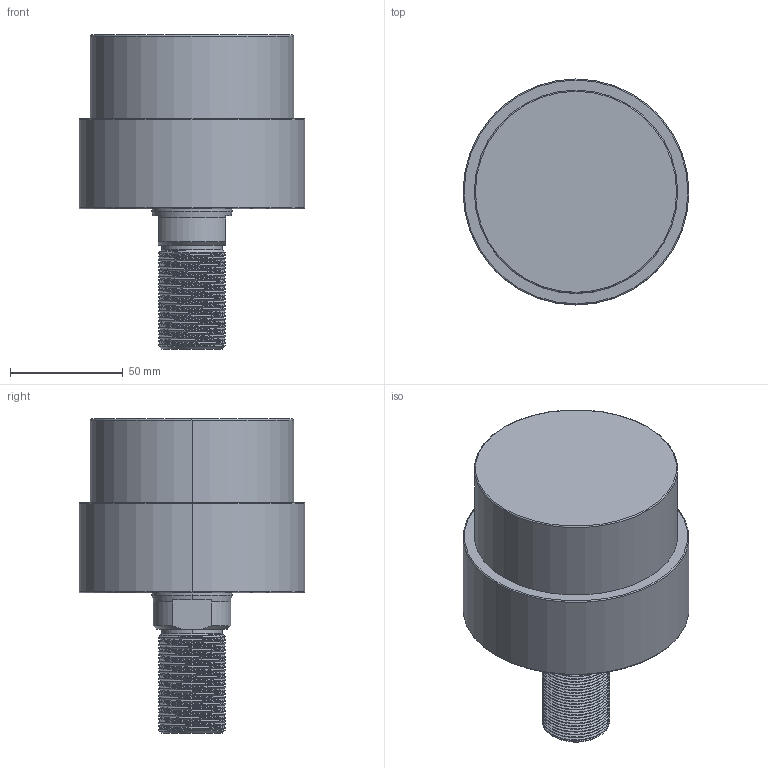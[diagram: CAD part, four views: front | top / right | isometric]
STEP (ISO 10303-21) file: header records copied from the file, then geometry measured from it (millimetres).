
FILE_DESCRIPTION (( 'STEP AP203' ), '1' );
FILE_NAME ('CLLU-090GT-(01-014).STEP', '2020-01-11T01:24:21', ( '' ), ( '' ), 'SwSTEP 2.0', 'SolidWorks 2015', '' );
FILE_SCHEMA (( 'CONFIG_CONTROL_DESIGN' ));
Length unit declared in the file: millimetre
Products named in the file (1): CLLU-090GT-(01-014)
Bounding box: 100 x 100 x 139 mm (x, y, z)
Volume: 588295.3 mm3; surface area: 50117.8 mm2
Topology: 1 solids, 1 shells, 122 faces, 318 edges, 199 vertices
Faces by surface type: cylinder 78, cone 25, plane 11, torus 6, bspline 2
Entity records: 7091 total; most frequent: CARTESIAN_POINT 4379, ORIENTED_EDGE 620, DIRECTION 498, EDGE_CURVE 310, VERTEX_POINT 199, AXIS2_PLACEMENT_3D 196, EDGE_LOOP 131, ADVANCED_FACE 122
